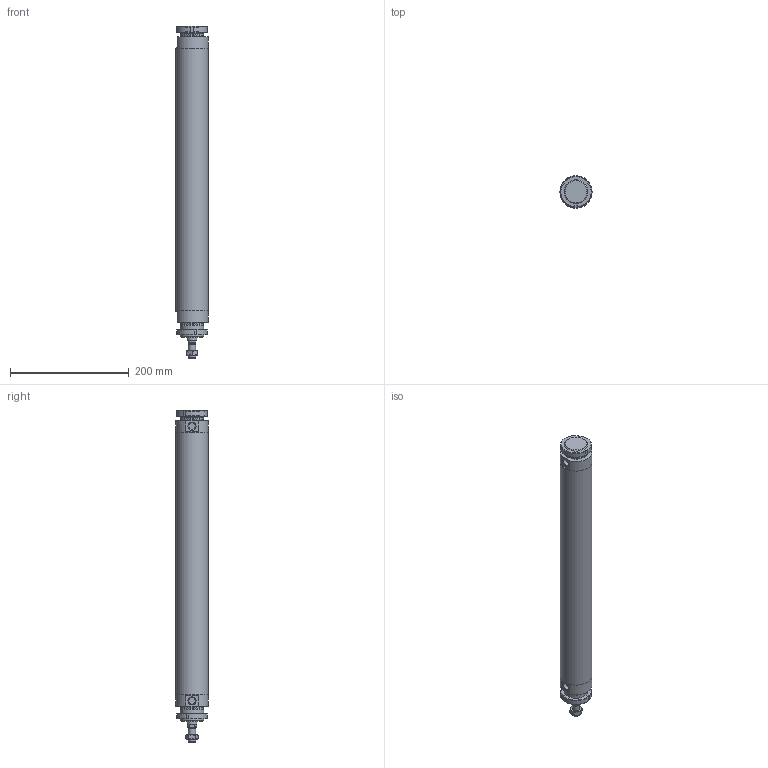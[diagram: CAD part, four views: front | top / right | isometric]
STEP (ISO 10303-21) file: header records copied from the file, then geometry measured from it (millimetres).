
FILE_DESCRIPTION(/* description */ (''),/* implementation_level */ '2;1');
FILE_NAME(/* name */ 'I:\Area Tecnica\Documenti\A-Manieri\_Inventor\12X\12X#C_###_####_#_#\12XAC_050_0400_#_#.stp',/* time_stamp */ '2015-04-28T15:20:17+02:00',/* author */ ('maniean1'),/* organization */ ('Pneumax S.p.A.'),/* preprocessor_version */ 'ST-DEVELOPER v15.2',/* originating_system */ 'Autodesk Inventor 2014',/* authorisation */ '');
FILE_SCHEMA (('AUTOMOTIVE_DESIGN { 1 0 10303 214 3 1 1 }'));
Length unit declared in the file: millimetre
Products named in the file (7): C1250_619-0400; 12X50_604; S12X50_0400; 12X_50_11; 12X50_620; G12X_050_05; 12XAC_050_0400_#_#
Bounding box: 54 x 54 x 560 mm (x, y, z)
Volume: 472536.9 mm3; surface area: 212503.2 mm2
Topology: 7 solids, 7 shells, 106 faces, 240 edges, 154 vertices
Faces by surface type: plane 52, cylinder 27, cone 27
Full cylindrical faces by diameter (mm): 10.2 x1, 11.4 x2, 12 x2, 14 x1, 15.6 x1, 16 x1, 38.2 x2, 40 x6, 50 x2, 54 x3
Entity records: 2243 total; most frequent: CARTESIAN_POINT 413, DIRECTION 382, ORIENTED_EDGE 292, AXIS2_PLACEMENT_3D 165, EDGE_CURVE 146, EDGE_LOOP 132, VERTEX_POINT 112, ADVANCED_FACE 85
